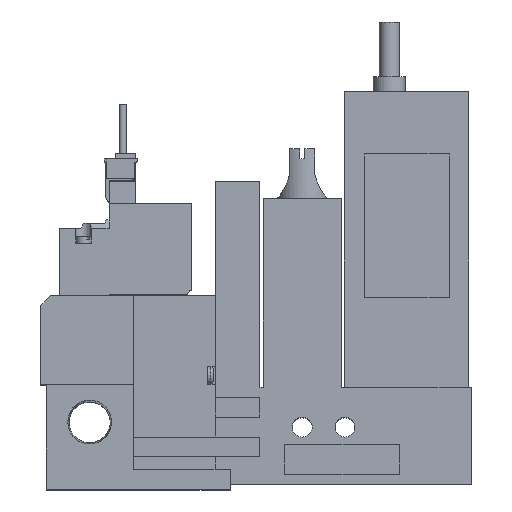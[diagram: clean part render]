
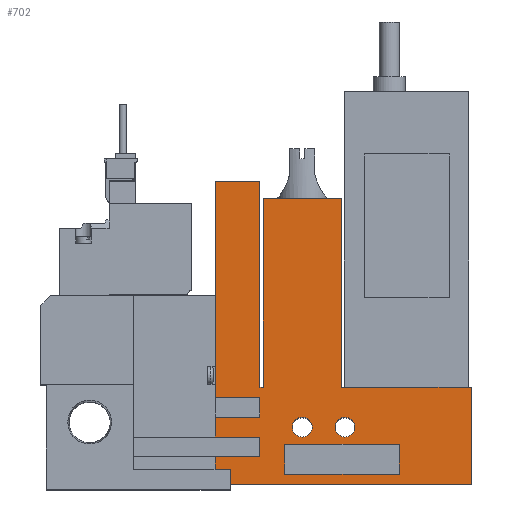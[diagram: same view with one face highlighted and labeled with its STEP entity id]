
A CAD part, top view. The second image highlights one B-rep face of the part: STEP entity #702.
In plain terms, the highlighted planar face has unit normal (0, 0, 1).
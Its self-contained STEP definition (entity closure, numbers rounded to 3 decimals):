
#702=ADVANCED_FACE('',(#1443,#1444,#1445,#1446),#1447,.T.);
#1443=FACE_OUTER_BOUND('',#2432,.T.);
#1444=FACE_BOUND('',#2433,.T.);
#1445=FACE_BOUND('',#2434,.T.);
#1446=FACE_BOUND('',#2435,.T.);
#1447=PLANE('',#2436);
#2432=EDGE_LOOP('',(#5027,#5028,#5029,#5030,#5031,#5032,#5033,#5034,#5035,#5036,#5037,#5038,#5039,#5040,#5041,#5042,#5043,#5044));
#2433=EDGE_LOOP('',(#5045,#5046,#5047,#5048));
#2434=EDGE_LOOP('',(#5049));
#2435=EDGE_LOOP('',(#5050));
#2436=AXIS2_PLACEMENT_3D('',#5051,#5052,#5053);
#5027=ORIENTED_EDGE('',*,*,#6908,.T.);
#5028=ORIENTED_EDGE('',*,*,#6909,.T.);
#5029=ORIENTED_EDGE('',*,*,#6910,.T.);
#5030=ORIENTED_EDGE('',*,*,#6911,.T.);
#5031=ORIENTED_EDGE('',*,*,#6912,.T.);
#5032=ORIENTED_EDGE('',*,*,#6913,.T.);
#5033=ORIENTED_EDGE('',*,*,#6914,.T.);
#5034=ORIENTED_EDGE('',*,*,#6915,.T.);
#5035=ORIENTED_EDGE('',*,*,#6916,.T.);
#5036=ORIENTED_EDGE('',*,*,#6888,.T.);
#5037=ORIENTED_EDGE('',*,*,#6917,.T.);
#5038=ORIENTED_EDGE('',*,*,#6918,.T.);
#5039=ORIENTED_EDGE('',*,*,#6919,.T.);
#5040=ORIENTED_EDGE('',*,*,#6868,.T.);
#5041=ORIENTED_EDGE('',*,*,#6920,.T.);
#5042=ORIENTED_EDGE('',*,*,#6921,.T.);
#5043=ORIENTED_EDGE('',*,*,#6922,.T.);
#5044=ORIENTED_EDGE('',*,*,#6923,.T.);
#5045=ORIENTED_EDGE('',*,*,#6924,.T.);
#5046=ORIENTED_EDGE('',*,*,#6925,.T.);
#5047=ORIENTED_EDGE('',*,*,#6926,.T.);
#5048=ORIENTED_EDGE('',*,*,#6927,.T.);
#5049=ORIENTED_EDGE('',*,*,#6928,.T.);
#5050=ORIENTED_EDGE('',*,*,#6851,.T.);
#5051=CARTESIAN_POINT('',(0.0,0.0,10.0));
#5052=DIRECTION('',(0.0,0.0,1.0));
#5053=DIRECTION('',(1.0,0.0,0.0));
#6851=EDGE_CURVE('',#8347,#8347,#8348,.T.);
#6868=EDGE_CURVE('',#8381,#8379,#8382,.T.);
#6888=EDGE_CURVE('',#8417,#8415,#8418,.T.);
#6908=EDGE_CURVE('',#8455,#8456,#8457,.T.);
#6909=EDGE_CURVE('',#8456,#8458,#8459,.T.);
#6910=EDGE_CURVE('',#8458,#8460,#8461,.T.);
#6911=EDGE_CURVE('',#8460,#8462,#8463,.T.);
#6912=EDGE_CURVE('',#8462,#8464,#8465,.T.);
#6913=EDGE_CURVE('',#8464,#8466,#8467,.T.);
#6914=EDGE_CURVE('',#8466,#8468,#8469,.T.);
#6915=EDGE_CURVE('',#8468,#8470,#8471,.T.);
#6916=EDGE_CURVE('',#8470,#8417,#8472,.T.);
#6917=EDGE_CURVE('',#8415,#8473,#8474,.T.);
#6918=EDGE_CURVE('',#8473,#8475,#8476,.T.);
#6919=EDGE_CURVE('',#8475,#8381,#8477,.T.);
#6920=EDGE_CURVE('',#8379,#8478,#8479,.T.);
#6921=EDGE_CURVE('',#8478,#8480,#8481,.T.);
#6922=EDGE_CURVE('',#8480,#8482,#8483,.T.);
#6923=EDGE_CURVE('',#8482,#8455,#8484,.T.);
#6924=EDGE_CURVE('',#8485,#8486,#8487,.T.);
#6925=EDGE_CURVE('',#8486,#8488,#8489,.T.);
#6926=EDGE_CURVE('',#8488,#8490,#8491,.T.);
#6927=EDGE_CURVE('',#8490,#8485,#8492,.T.);
#6928=EDGE_CURVE('',#8493,#8493,#8494,.T.);
#8347=VERTEX_POINT('',#10733);
#8348=CIRCLE('',#10734,2.0);
#8379=VERTEX_POINT('',#10779);
#8381=VERTEX_POINT('',#10782);
#8382=LINE('',#10783,#10784);
#8415=VERTEX_POINT('',#10830);
#8417=VERTEX_POINT('',#10833);
#8418=LINE('',#10834,#10835);
#8455=VERTEX_POINT('',#10891);
#8456=VERTEX_POINT('',#10892);
#8457=LINE('',#10893,#10894);
#8458=VERTEX_POINT('',#10895);
#8459=LINE('',#10896,#10897);
#8460=VERTEX_POINT('',#10898);
#8461=LINE('',#10899,#10900);
#8462=VERTEX_POINT('',#10901);
#8463=LINE('',#10902,#10903);
#8464=VERTEX_POINT('',#10904);
#8465=LINE('',#10905,#10906);
#8466=VERTEX_POINT('',#10907);
#8467=LINE('',#10908,#10909);
#8468=VERTEX_POINT('',#10910);
#8469=LINE('',#10911,#10912);
#8470=VERTEX_POINT('',#10913);
#8471=LINE('',#10914,#10915);
#8472=LINE('',#10916,#10917);
#8473=VERTEX_POINT('',#10918);
#8474=LINE('',#10919,#10920);
#8475=VERTEX_POINT('',#10921);
#8476=LINE('',#10922,#10923);
#8477=LINE('',#10924,#10925);
#8478=VERTEX_POINT('',#10926);
#8479=LINE('',#10927,#10928);
#8480=VERTEX_POINT('',#10929);
#8481=LINE('',#10930,#10931);
#8482=VERTEX_POINT('',#10932);
#8483=LINE('',#10933,#10934);
#8484=LINE('',#10935,#10936);
#8485=VERTEX_POINT('',#10937);
#8486=VERTEX_POINT('',#10938);
#8487=LINE('',#10939,#10940);
#8488=VERTEX_POINT('',#10941);
#8489=LINE('',#10942,#10943);
#8490=VERTEX_POINT('',#10944);
#8491=LINE('',#10945,#10946);
#8492=LINE('',#10947,#10948);
#8493=VERTEX_POINT('',#10949);
#8494=CIRCLE('',#10950,2.0);
#10733=CARTESIAN_POINT('',(63.2,11.5,10.0));
#10734=AXIS2_PLACEMENT_3D('',#12655,#12656,#12657);
#10779=CARTESIAN_POINT('',(44.75,57.5,10.0));
#10782=CARTESIAN_POINT('',(60.45,57.5,10.0));
#10783=CARTESIAN_POINT('',(60.45,57.5,10.0));
#10784=VECTOR('',#12676,1.0);
#10830=CARTESIAN_POINT('',(86.6,0.0,10.0));
#10833=CARTESIAN_POINT('',(35.1,0.0,10.0));
#10834=CARTESIAN_POINT('',(18.6,0.0,10.0));
#10835=VECTOR('',#12706,1.0);
#10891=CARTESIAN_POINT('',(35.1,61.0,10.0));
#10892=CARTESIAN_POINT('',(35.1,17.5,10.0));
#10893=CARTESIAN_POINT('',(35.1,61.0,10.0));
#10894=VECTOR('',#12726,1.0);
#10895=CARTESIAN_POINT('',(44.1,17.5,10.0));
#10896=CARTESIAN_POINT('',(0.0,17.5,10.0));
#10897=VECTOR('',#12727,1.0);
#10898=CARTESIAN_POINT('',(44.1,13.5,10.0));
#10899=CARTESIAN_POINT('',(44.1,0.0,10.0));
#10900=VECTOR('',#12728,1.0);
#10901=CARTESIAN_POINT('',(35.1,13.5,10.0));
#10902=CARTESIAN_POINT('',(0.0,13.5,10.0));
#10903=VECTOR('',#12729,1.0);
#10904=CARTESIAN_POINT('',(35.1,9.5,10.0));
#10905=CARTESIAN_POINT('',(35.1,0.0,10.0));
#10906=VECTOR('',#12730,1.0);
#10907=CARTESIAN_POINT('',(44.1,9.5,10.0));
#10908=CARTESIAN_POINT('',(0.0,9.5,10.0));
#10909=VECTOR('',#12731,1.0);
#10910=CARTESIAN_POINT('',(44.1,5.5,10.0));
#10911=CARTESIAN_POINT('',(44.1,0.0,10.0));
#10912=VECTOR('',#12732,1.0);
#10913=CARTESIAN_POINT('',(35.1,5.5,10.0));
#10914=CARTESIAN_POINT('',(0.0,5.5,10.0));
#10915=VECTOR('',#12733,1.0);
#10916=CARTESIAN_POINT('',(35.1,0.0,10.0));
#10917=VECTOR('',#12734,1.0);
#10918=CARTESIAN_POINT('',(86.6,19.5,10.0));
#10919=CARTESIAN_POINT('',(86.6,0.0,10.0));
#10920=VECTOR('',#12735,1.0);
#10921=CARTESIAN_POINT('',(60.45,19.5,10.0));
#10922=CARTESIAN_POINT('',(86.6,19.5,10.0));
#10923=VECTOR('',#12736,1.0);
#10924=CARTESIAN_POINT('',(60.45,19.5,10.0));
#10925=VECTOR('',#12737,1.0);
#10926=CARTESIAN_POINT('',(44.75,19.5,10.0));
#10927=CARTESIAN_POINT('',(44.75,57.5,10.0));
#10928=VECTOR('',#12738,1.0);
#10929=CARTESIAN_POINT('',(44.1,19.5,10.0));
#10930=CARTESIAN_POINT('',(44.75,19.5,10.0));
#10931=VECTOR('',#12739,1.0);
#10932=CARTESIAN_POINT('',(44.1,61.0,10.0));
#10933=CARTESIAN_POINT('',(44.1,19.5,10.0));
#10934=VECTOR('',#12740,1.0);
#10935=CARTESIAN_POINT('',(44.1,61.0,10.0));
#10936=VECTOR('',#12741,1.0);
#10937=CARTESIAN_POINT('',(49.1,2.0,10.0));
#10938=CARTESIAN_POINT('',(49.1,8.0,10.0));
#10939=CARTESIAN_POINT('',(49.1,0.0,10.0));
#10940=VECTOR('',#12742,1.0);
#10941=CARTESIAN_POINT('',(72.1,8.0,10.0));
#10942=CARTESIAN_POINT('',(0.0,8.0,10.0));
#10943=VECTOR('',#12743,1.0);
#10944=CARTESIAN_POINT('',(72.1,2.0,10.0));
#10945=CARTESIAN_POINT('',(72.1,0.0,10.0));
#10946=VECTOR('',#12744,1.0);
#10947=CARTESIAN_POINT('',(0.0,2.0,10.0));
#10948=VECTOR('',#12745,1.0);
#10949=CARTESIAN_POINT('',(54.6,11.5,10.0));
#10950=AXIS2_PLACEMENT_3D('',#12746,#12747,#12748);
#12655=CARTESIAN_POINT('',(61.2,11.5,10.0));
#12656=DIRECTION('',(0.0,0.0,-1.0));
#12657=DIRECTION('',(1.0,0.0,0.0));
#12676=DIRECTION('',(-1.0,0.0,0.0));
#12706=DIRECTION('',(1.0,0.0,0.0));
#12726=DIRECTION('',(0.0,-1.0,0.0));
#12727=DIRECTION('',(1.0,0.0,0.0));
#12728=DIRECTION('',(0.0,-1.0,0.0));
#12729=DIRECTION('',(-1.0,0.0,0.0));
#12730=DIRECTION('',(0.0,-1.0,0.0));
#12731=DIRECTION('',(1.0,0.0,0.0));
#12732=DIRECTION('',(0.0,-1.0,0.0));
#12733=DIRECTION('',(-1.0,0.0,0.0));
#12734=DIRECTION('',(0.0,-1.0,0.0));
#12735=DIRECTION('',(0.0,1.0,0.0));
#12736=DIRECTION('',(-1.0,0.0,0.0));
#12737=DIRECTION('',(0.0,1.0,0.0));
#12738=DIRECTION('',(0.0,-1.0,0.0));
#12739=DIRECTION('',(-1.0,0.0,0.0));
#12740=DIRECTION('',(0.0,1.0,0.0));
#12741=DIRECTION('',(-1.0,0.0,0.0));
#12742=DIRECTION('',(0.0,1.0,0.0));
#12743=DIRECTION('',(1.0,0.0,0.0));
#12744=DIRECTION('',(0.0,-1.0,0.0));
#12745=DIRECTION('',(-1.0,0.0,0.0));
#12746=CARTESIAN_POINT('',(52.6,11.5,10.0));
#12747=DIRECTION('',(0.0,0.0,-1.0));
#12748=DIRECTION('',(1.0,0.0,0.0));
